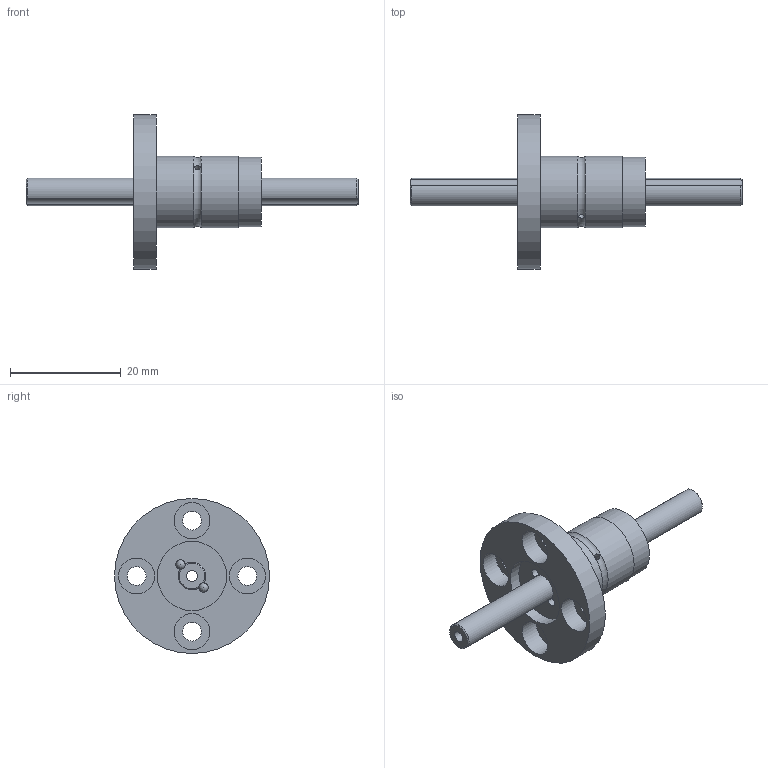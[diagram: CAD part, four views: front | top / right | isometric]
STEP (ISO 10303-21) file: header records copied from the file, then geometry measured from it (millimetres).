
FILE_DESCRIPTION(/* description */ ('Unknown'),/* implementation_level */ '2;1');
FILE_NAME(/* name */ 'TLF005-D1-60',/* time_stamp */ '2024-12-16T13:38:05+08:00',/* author */ ('Unknown'),/* organization */ ('Unknown'),/* preprocessor_version */ 'ST-DEVELOPER v18.102',/* originating_system */ 'Solid Edge',/* authorisation */ 'Unknown');
FILE_SCHEMA (('AUTOMOTIVE_DESIGN {1 0 10303 214 3 1 1}'));
Length unit declared in the file: millimetre
Products named in the file (3): TLF005-D1-60; TLF005; TLF005-D1-xxxxx
Assembly tree (2 placements, depth 2):
  TLF005-D1-60
    TLF005
    TLF005-D1-xxxxx
Bounding box: 60 x 28 x 28 mm (x, y, z)
Volume: 4683.3 mm3; surface area: 4517.1 mm2
Topology: 2 solids, 2 shells, 50 faces, 154 edges, 106 vertices
Faces by surface type: cylinder 24, plane 11, sphere 10, cone 4, torus 1
Full cylindrical faces by diameter (mm): 1 x2, 2 x1, 3.4 x4, 6.5 x4, 12.5 x1, 12.6 x1, 13 x2, 28 x1
Entity records: 1795 total; most frequent: CARTESIAN_POINT 627, DIRECTION 226, ORIENTED_EDGE 172, EDGE_LOOP 116, FACE_BOUND 116, AXIS2_PLACEMENT_3D 109, EDGE_CURVE 86, VERTEX_POINT 74
